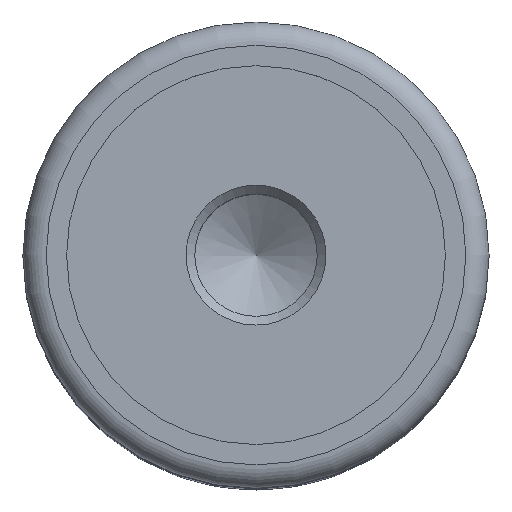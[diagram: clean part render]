
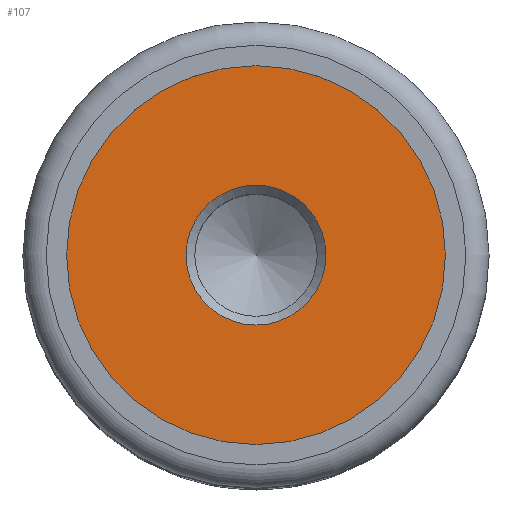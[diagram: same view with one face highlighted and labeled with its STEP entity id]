
A CAD part, top view. The second image highlights one B-rep face of the part: STEP entity #107.
In plain terms, the highlighted planar face has unit normal (0, 0, 1).
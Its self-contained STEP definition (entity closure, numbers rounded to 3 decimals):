
#107=ADVANCED_FACE('',(#186,#187),#188,.T.);
#186=FACE_BOUND('',#287,.T.);
#187=FACE_OUTER_BOUND('',#288,.T.);
#188=PLANE('',#289);
#287=EDGE_LOOP('',(#386));
#288=EDGE_LOOP('',(#387));
#289=AXIS2_PLACEMENT_3D('',#388,#389,#390);
#386=ORIENTED_EDGE('',*,*,#519,.T.);
#387=ORIENTED_EDGE('',*,*,#520,.T.);
#388=CARTESIAN_POINT('',(0.0,0.0,17.2));
#389=DIRECTION('',(0.0,0.0,1.0));
#390=DIRECTION('',(1.0,0.0,0.0));
#519=EDGE_CURVE('',#568,#568,#569,.F.);
#520=EDGE_CURVE('',#570,#570,#571,.T.);
#568=VERTEX_POINT('',#638);
#569=CIRCLE('',#639,2.4);
#570=VERTEX_POINT('',#640);
#571=CIRCLE('',#641,6.5);
#638=CARTESIAN_POINT('',(2.4,0.,17.2));
#639=AXIS2_PLACEMENT_3D('',#829,#830,#831);
#640=CARTESIAN_POINT('',(6.5,0.0,17.2));
#641=AXIS2_PLACEMENT_3D('',#832,#833,#834);
#829=CARTESIAN_POINT('',(0.0,0.0,17.2));
#830=DIRECTION('',(0.0,0.0,1.0));
#831=DIRECTION('',(1.0,0.0,0.0));
#832=CARTESIAN_POINT('',(0.0,0.0,17.2));
#833=DIRECTION('',(0.0,0.0,1.0));
#834=DIRECTION('',(1.0,0.0,0.0));
